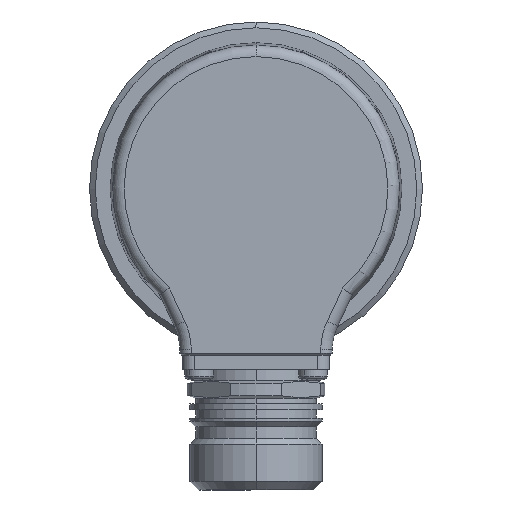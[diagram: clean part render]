
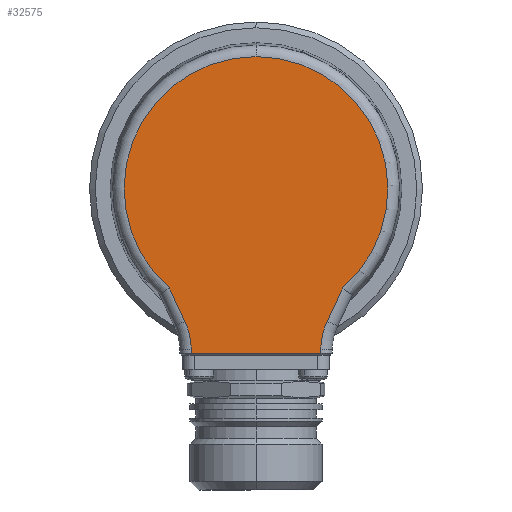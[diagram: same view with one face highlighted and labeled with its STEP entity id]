
A CAD part, left-side view. The second image highlights one B-rep face of the part: STEP entity #32575.
In plain terms, the highlighted planar face has unit normal (-1, 0, 0).
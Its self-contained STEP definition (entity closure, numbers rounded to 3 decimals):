
#10572 = CARTESIAN_POINT ( 'NONE',  ( -21., 15.091, -17.32 ) ) ;
#10882 = CARTESIAN_POINT ( 'NONE',  ( -21., 0., 22.972 ) ) ;
#10883 = DIRECTION ( 'NONE',  ( 0., 0., 1. ) ) ;
#10884 = DIRECTION ( 'NONE',  ( -1., 0., 0. ) ) ;
#10885 = AXIS2_PLACEMENT_3D ( 'NONE', #10891, #10884, #10883 ) ;
#10886 = CIRCLE ( 'NONE', #10885, 22.972 ) ;
#10891 = CARTESIAN_POINT ( 'NONE',  ( -21., 0., 0. ) ) ;
#26741 = CARTESIAN_POINT ( 'NONE',  ( -21., 11.268, -27.974 ) ) ;
#27274 = CARTESIAN_POINT ( 'NONE',  ( -21., 11.255, -28.695 ) ) ;
#27585 = DIRECTION ( 'NONE',  ( 0., -0.017, -1. ) ) ;
#27586 = VECTOR ( 'NONE', #27585, 1000. ) ;
#27587 = CARTESIAN_POINT ( 'NONE',  ( -21., 11.752, -0.205 ) ) ;
#27588 = LINE ( 'NONE', #27587, #27586 ) ;
#27776 = DIRECTION ( 'NONE',  ( 0., 0., 1. ) ) ;
#27777 = DIRECTION ( 'NONE',  ( -1., 0., 0. ) ) ;
#27778 = CARTESIAN_POINT ( 'NONE',  ( -21., 0., 0. ) ) ;
#27779 = AXIS2_PLACEMENT_3D ( 'NONE', #27778, #27777, #27776 ) ;
#27780 = CIRCLE ( 'NONE', #27779, 22.972 ) ;
#27782 = DIRECTION ( 'NONE',  ( 0., -1., 0. ) ) ;
#27783 = VECTOR ( 'NONE', #27782, 1000. ) ;
#27784 = CARTESIAN_POINT ( 'NONE',  ( -21., -11.25, -28.695 ) ) ;
#27785 = LINE ( 'NONE', #27784, #27783 ) ;
#27786 = DIRECTION ( 'NONE',  ( 0., -0.017, 1. ) ) ;
#27787 = VECTOR ( 'NONE', #27786, 1000. ) ;
#27788 = CARTESIAN_POINT ( 'NONE',  ( -21., -11.752, -0.205 ) ) ;
#27789 = LINE ( 'NONE', #27788, #27787 ) ;
#27791 = CARTESIAN_POINT ( 'NONE',  ( -21., -12.39, -23.112 ) ) ;
#27792 = CARTESIAN_POINT ( 'NONE',  ( -21., -15.091, -17.32 ) ) ;
#27793 = DIRECTION ( 'NONE',  ( 0., -0.423, 0.906 ) ) ;
#27794 = VECTOR ( 'NONE', #27793, 1000. ) ;
#27795 = CARTESIAN_POINT ( 'NONE',  ( -21., -14.953, -17.615 ) ) ;
#27796 = LINE ( 'NONE', #27795, #27794 ) ;
#27797 = CARTESIAN_POINT ( 'NONE',  ( -21., -11.255, -28.695 ) ) ;
#27814 = DIRECTION ( 'NONE',  ( 0., 0., 1. ) ) ;
#27815 = DIRECTION ( 'NONE',  ( 1., 0., 0. ) ) ;
#27816 = AXIS2_PLACEMENT_3D ( 'NONE', #27822, #27815, #27814 ) ;
#27817 = CIRCLE ( 'NONE', #27816, 12. ) ;
#27822 = CARTESIAN_POINT ( 'NONE',  ( -21., -23.266, -28.183 ) ) ;
#27837 = FACE_OUTER_BOUND ( 'NONE', #32507, .T. ) ;
#27860 = CARTESIAN_POINT ( 'NONE',  ( -21., -11.268, -27.974 ) ) ;
#27874 = DIRECTION ( 'NONE',  ( 0., 0., 1. ) ) ;
#27875 = DIRECTION ( 'NONE',  ( 1., 0., 0. ) ) ;
#27876 = CARTESIAN_POINT ( 'NONE',  ( -21., 0., 0. ) ) ;
#27877 = AXIS2_PLACEMENT_3D ( 'NONE', #27876, #27875, #27874 ) ;
#27880 = PLANE ( 'NONE',  #27877 ) ;
#28010 = DIRECTION ( 'NONE',  ( 0., 0., 1. ) ) ;
#28011 = DIRECTION ( 'NONE',  ( 1., 0., 0. ) ) ;
#28012 = CARTESIAN_POINT ( 'NONE',  ( -21., 23.266, -28.183 ) ) ;
#28013 = AXIS2_PLACEMENT_3D ( 'NONE', #28012, #28011, #28010 ) ;
#28014 = CIRCLE ( 'NONE', #28013, 12. ) ;
#28034 = DIRECTION ( 'NONE',  ( 0., -0.423, -0.906 ) ) ;
#28035 = VECTOR ( 'NONE', #28034, 1000. ) ;
#28036 = CARTESIAN_POINT ( 'NONE',  ( -21., 12.39, -23.112 ) ) ;
#28037 = LINE ( 'NONE', #28036, #28035 ) ;
#28038 = CARTESIAN_POINT ( 'NONE',  ( -21., 12.39, -23.112 ) ) ;
#32235 = VERTEX_POINT ( 'NONE', #26741 ) ;
#32404 = VERTEX_POINT ( 'NONE', #27274 ) ;
#32502 = ORIENTED_EDGE ( 'NONE', *, *, #32503, .T. ) ;
#32503 = EDGE_CURVE ( 'NONE', #32235, #32404, #27588, .T. ) ;
#32507 = EDGE_LOOP ( 'NONE', ( #32502, #32551, #32560, #32543, #32554, #32549, #32610, #32606, #32603 ) ) ;
#32540 = VERTEX_POINT ( 'NONE', #27797 ) ;
#32541 = EDGE_CURVE ( 'NONE', #32544, #32542, #27796, .T. ) ;
#32542 = VERTEX_POINT ( 'NONE', #27792 ) ;
#32543 = ORIENTED_EDGE ( 'NONE', *, *, #32553, .T. ) ;
#32544 = VERTEX_POINT ( 'NONE', #27791 ) ;
#32547 = EDGE_CURVE ( 'NONE', #32540, #32559, #27789, .T. ) ;
#32548 = EDGE_CURVE ( 'NONE', #32404, #32540, #27785, .T. ) ;
#32549 = ORIENTED_EDGE ( 'NONE', *, *, #32550, .T. ) ;
#32550 = EDGE_CURVE ( 'NONE', #32542, #34460, #27780, .T. ) ;
#32551 = ORIENTED_EDGE ( 'NONE', *, *, #32548, .T. ) ;
#32553 = EDGE_CURVE ( 'NONE', #32559, #32544, #27817, .T. ) ;
#32554 = ORIENTED_EDGE ( 'NONE', *, *, #32541, .T. ) ;
#32559 = VERTEX_POINT ( 'NONE', #27860 ) ;
#32560 = ORIENTED_EDGE ( 'NONE', *, *, #32547, .T. ) ;
#32575 = ADVANCED_FACE ( 'NONE', ( #27837 ), #27880, .F. ) ;
#32603 = ORIENTED_EDGE ( 'NONE', *, *, #32604, .T. ) ;
#32604 = EDGE_CURVE ( 'NONE', #32608, #32235, #28014, .T. ) ;
#32606 = ORIENTED_EDGE ( 'NONE', *, *, #32609, .T. ) ;
#32608 = VERTEX_POINT ( 'NONE', #28038 ) ;
#32609 = EDGE_CURVE ( 'NONE', #34375, #32608, #28037, .T. ) ;
#32610 = ORIENTED_EDGE ( 'NONE', *, *, #34459, .T. ) ;
#34375 = VERTEX_POINT ( 'NONE', #10572 ) ;
#34459 = EDGE_CURVE ( 'NONE', #34460, #34375, #10886, .T. ) ;
#34460 = VERTEX_POINT ( 'NONE', #10882 ) ;
